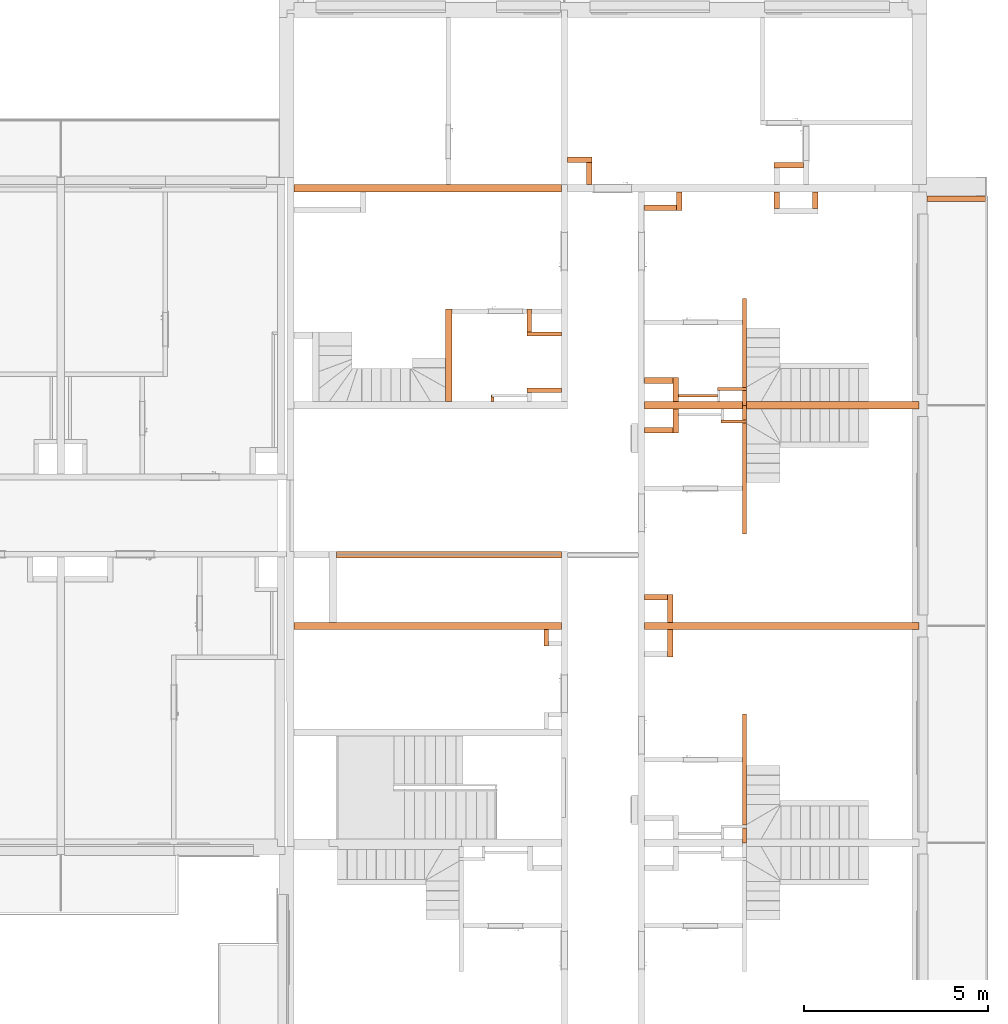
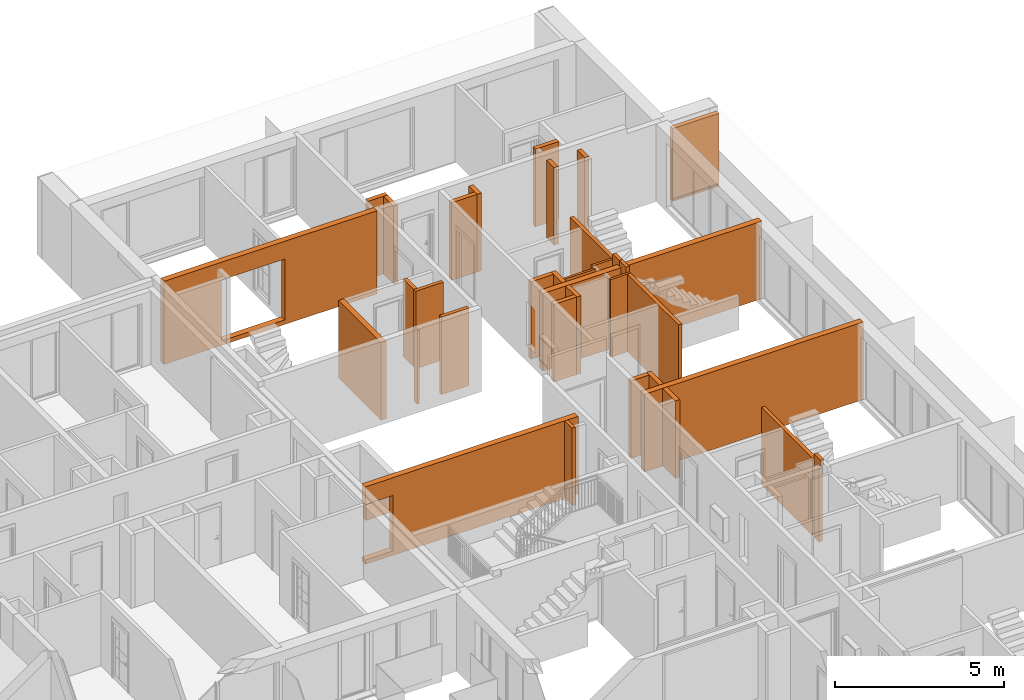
# One storey, part 60 of 61: 32 proxies, 2 openings.
"""IFC2X3 building model written with IfcOpenShell, lengths in millimetres."""

from ifc_helpers import new_model, entity, si_unit, converted_unit, derived_unit, money_unit, direction, frame, origin_with_axes, origin_2d_with_axis, place, context, subcontext, project, spatial, rectangle, extrude, faceted_brep, material, material_list, type_object, element, save


model = new_model("IFC2X3")

# Units and contexts
model_context = context("Model", 3, precision=0.01, world=origin_with_axes(), true_north=direction((0.34421633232, 0.938890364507)))
body_context = subcontext(model_context, "Body", "Model", "MODEL_VIEW")
ifc_project = project(units=[si_unit("LENGTHUNIT", "METRE", prefix="MILLI"), si_unit("AREAUNIT", "SQUARE_METRE"), si_unit("VOLUMEUNIT", "CUBIC_METRE"), converted_unit("PLANEANGLEUNIT", "DEGREE", entity("IfcPlaneAngleMeasure", 0.0174532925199), si_unit("PLANEANGLEUNIT", "RADIAN"), dimensions=[0, 0, 0, 0, 0, 0, 0]), si_unit("SOLIDANGLEUNIT", "STERADIAN"), money_unit("USD"), converted_unit("TIMEUNIT", "Year", entity("IfcTimeMeasure", 31556926.0), si_unit("TIMEUNIT", "SECOND"), dimensions=[0, 0, 1, 0, 0, 0, 0]), si_unit("MASSUNIT", "GRAM", prefix="KILO"), si_unit("THERMODYNAMICTEMPERATUREUNIT", "DEGREE_CELSIUS"), si_unit("LUMINOUSINTENSITYUNIT", "LUMEN"), si_unit("ENERGYUNIT", "JOULE", prefix="MEGA"), derived_unit("THERMALCONDUCTANCEUNIT", [(si_unit("POWERUNIT", "WATT"), 1), (si_unit("LENGTHUNIT", "METRE"), -1), (si_unit("THERMODYNAMICTEMPERATUREUNIT", "KELVIN"), -1)]), derived_unit("SPECIFICHEATCAPACITYUNIT", [(si_unit("ENERGYUNIT", "JOULE"), 1), (si_unit("MASSUNIT", "GRAM", prefix="KILO"), -1), (si_unit("THERMODYNAMICTEMPERATUREUNIT", "KELVIN"), -1)]), derived_unit("MASSDENSITYUNIT", [(si_unit("MASSUNIT", "GRAM", prefix="KILO"), 1), (si_unit("VOLUMEUNIT", "CUBIC_METRE"), -1)])], contexts=[model_context])

# Site, building, storey
site_placement = place(None, origin_with_axes())
site = spatial("IfcSite", under=ifc_project, at=site_placement, Name="USTRONIE MORSKIE", CompositionType="ELEMENT")
building_placement = place(site_placement, origin_with_axes())
building = spatial("IfcBuilding", under=site, at=building_placement, Name="Budynek", CompositionType="ELEMENT")
storey_placement = place(building_placement, frame((0.0, 0.0, 13000.0), z_axis=(0.0, 0.0, 1.0), x_axis=(1.0, 0.0, 0.0)))
storey = spatial("IfcBuildingStorey", under=building, at=storey_placement, Name="PIĘTRO 4", CompositionType="ELEMENT", Elevation=13000.0)

# Proxies
ifc_material_1 = material(Name="Bloczki silikatowe")
building_element_proxy_type_1 = type_object("IfcBuildingElementProxyType", Name="Bloczki silikatowe 120", PredefinedType="NOTDEFINED")
proxy_1_placement = place(storey_placement, frame((415057.919124, 740741.179476, -160.0), z_axis=(0.0, 0.0, 1.0), x_axis=(1.0, 0.0, 0.0)))
element("IfcBuildingElementProxy", 1, at=proxy_1_placement, inside=storey, type_object=building_element_proxy_type_1, material=ifc_material_1, Name="SW-04", context=body_context, shape_type="Brep", body=[
    faceted_brep([(880.001794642, -59.9999999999, 2800.0), (880.001794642, 59.9999999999, 2800.0), (-60.0, 59.9999999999, 2800.0), (-60.0, -59.9999999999, 2800.0), (880.001794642, -59.9999999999, 0.0), (880.001794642, 59.9999999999, 0.0), (-60.0, 59.9999999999, 0.0), (-60.0, -59.9999999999, 0.0)], [[[0, 1, 2, 3]], [[1, 0, 4, 5]], [[1, 5, 6, 2]], [[7, 3, 2, 6]], [[4, 0, 3, 7]], [[5, 4, 7, 6]]]),
])
proxy_2_placement = place(storey_placement, frame((420917.920919, 738801.202062, -160.0), z_axis=(0.0, 0.0, 1.0), x_axis=(0.0, -1.0, 0.0)))
element("IfcBuildingElementProxy", 2, at=proxy_2_placement, inside=storey, type_object=building_element_proxy_type_1, material=ifc_material_1, Name="SW-04", context=body_context, shape_type="Brep", body=[
    faceted_brep([(480.003508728, -60.0, 2800.0), (3499.99643694, -60.0, 2800.0), (3499.99643694, 60.0, 2800.0), (2099.99643694, 60.0, 2800.0), (480.003508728, 60.0, 2800.0), (3499.99643694, -60.0, 0.0), (480.003508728, -60.0, 0.0), (3499.99643694, 60.0, 0.0), (480.003508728, 60.0, 0.0)], [[[0, 1, 2, 3, 4]], [[5, 1, 0, 6]], [[7, 2, 1, 5]], [[4, 3, 2, 7, 8]], [[6, 0, 4, 8]], [[7, 5, 6, 8]]]),
    faceted_brep([(0.0, -60.0, 3000.0), (400.003508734, -60.0, 3000.0), (400.003508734, 60.0, 3000.0), (0.0, 60.0, 3000.0), (400.003508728, -60.0, 0.0), (400.003508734, -60.0, 2800.0), (0.0, -60.0, 2800.0), (100.003416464, -60.0, 2800.0), (100.003416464, -60.0, 0.0), (400.003508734, 60.0, 2800.0), (400.003508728, 60.0, 0.0), (100.003416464, 60.0, 0.0), (100.003416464, 60.0, 2800.0), (0.0, 60.0, 2800.0)], [[[0, 1, 2, 3]], [[4, 5, 1, 0, 6, 7, 8]], [[5, 9, 2, 1]], [[3, 2, 9, 10, 11, 12, 13]], [[0, 3, 13, 6]], [[10, 9, 5, 4]], [[12, 7, 6, 13]], [[8, 7, 12, 11]], [[8, 11, 10, 4]]]),
])
proxy_3_placement = place(storey_placement, frame((415057.919124, 741361.180377, -160.0), z_axis=(0.0, 0.0, 1.0), x_axis=(0.0, -1.0, 0.0)))
element("IfcBuildingElementProxy", 3, at=proxy_3_placement, inside=storey, type_object=building_element_proxy_type_1, material=ifc_material_1, Name="SW-04", context=body_context, shape_type="Brep", body=[
    faceted_brep([(560.00090117, -60.0, 2800.0), (560.00090117, 60.0, 2800.0), (-59.9999999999, 60.0, 2800.0), (-59.9999999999, -60.0, 2800.0), (560.00090117, -60.0, 0.0), (560.00090117, 60.0, 0.0), (-59.9999999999, 60.0, 0.0), (-59.9999999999, -60.0, 0.0)], [[[0, 1, 2, 3]], [[1, 0, 4, 5]], [[1, 5, 6, 2]], [[7, 3, 2, 6]], [[4, 0, 3, 7]], [[5, 4, 7, 6]]]),
])
proxy_4_placement = place(storey_placement, frame((420917.920919, 738801.202062, -160.0), z_axis=(0.0, 0.0, 1.0), x_axis=(0.0, 1.0, 0.0)))
element("IfcBuildingElementProxy", 4, at=proxy_4_placement, inside=storey, type_object=building_element_proxy_type_1, material=ifc_material_1, Name="SW-04", context=body_context, shape_type="Brep", body=[
    faceted_brep([(399.997456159, -60.0, 0.0), (399.999903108, -60.0, 2800.0), (399.999903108, -60.0, 3000.0), (0.0, -60.0, 3000.0), (0.0, -60.0, 2800.0), (99.9965835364, -60.0, 2800.0), (99.9965835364, -60.0, 0.0), (399.997456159, 60.0, 0.0), (399.999903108, 60.0, 2800.0), (399.999903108, 60.0, 3000.0), (0.0, 60.0, 3000.0), (0.0, 60.0, 2800.0), (99.9965835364, 60.0, 2800.0), (99.9965835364, 60.0, 0.0)], [[[0, 1, 2, 3, 4, 5, 6]], [[7, 8, 1, 0]], [[8, 9, 2, 1]], [[3, 2, 9, 10]], [[3, 10, 11, 4]], [[11, 12, 5, 4]], [[12, 13, 6, 5]], [[6, 13, 7, 0]], [[10, 9, 8, 7, 13, 12, 11]]]),
    faceted_brep([(2910.01632409, 60.0, 0.0), (2910.01632409, 60.0, 2800.0), (2910.01632409, -60.0, 2800.0), (2910.01632409, -60.0, 0.0), (479.997456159, 60.0, 2800.0), (479.997456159, 60.0, 0.0), (479.997456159, -60.0, 2800.0), (2100.00615581, -60.0, 2800.0), (479.997456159, -60.0, 0.0)], [[[0, 1, 2, 3]], [[4, 1, 0, 5]], [[6, 7, 2, 1, 4]], [[3, 2, 7, 6, 8]], [[0, 3, 8, 5]], [[8, 6, 4, 5]]]),
])
proxy_5_placement = place(storey_placement, frame((420917.920919, 726901.199074, -160.0), z_axis=(0.0, 0.0, 1.0), x_axis=(0.0, 1.0, 0.0)))
element("IfcBuildingElementProxy", 5, at=proxy_5_placement, inside=storey, type_object=building_element_proxy_type_1, material=ifc_material_1, Name="SW-04", context=body_context, shape_type="Brep", body=[
    faceted_brep([(400.000444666, -60.0, 0.0), (399.999962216, -60.0, 2800.0), (399.999962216, -60.0, 3000.0), (0.0, -60.0, 3000.0), (0.0, -60.0, 2800.0), (99.9999622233, -60.0, 2800.0), (99.9999622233, -60.0, 0.0), (400.000444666, 60.0, 0.0), (399.999962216, 60.0, 2800.0), (399.999962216, 60.0, 3000.0), (0.0, 60.0, 3000.0), (0.0, 60.0, 2800.0), (99.9999622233, 60.0, 2800.0), (99.9999622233, 60.0, 0.0)], [[[0, 1, 2, 3, 4, 5, 6]], [[7, 8, 1, 0]], [[8, 9, 2, 1]], [[3, 2, 9, 10]], [[3, 10, 11, 4]], [[11, 12, 5, 4]], [[12, 13, 6, 5]], [[6, 13, 7, 0]], [[10, 9, 8, 7, 13, 12, 11]]]),
    faceted_brep([(3499.97686691, 60.0, 0.0), (3499.97686691, 60.0, 2800.0), (3499.97686691, -60.0, 2800.0), (3499.97686691, -60.0, 0.0), (480.000444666, 60.0, 2800.0), (480.000444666, 60.0, 0.0), (480.000444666, -60.0, 2800.0), (2099.97686691, -60.0, 2800.0), (480.000444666, -60.0, 0.0)], [[[0, 1, 2, 3]], [[4, 1, 0, 5]], [[6, 7, 2, 1, 4]], [[3, 2, 7, 6, 8]], [[0, 3, 8, 5]], [[8, 6, 4, 5]]]),
])
proxy_6_placement = place(storey_placement, frame((415587.920919, 732801.199169, -160.0), z_axis=(0.0, 0.0, 1.0), x_axis=(0.0, -1.0, 0.0)))
element("IfcBuildingElementProxy", 6, at=proxy_6_placement, inside=storey, type_object=building_element_proxy_type_1, material=ifc_material_1, Name="SW-04", context=body_context, shape_type="Brep", body=[
    faceted_brep([(100.000132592, 0.0, 0.0), (100.000132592, 0.0, 2800.0), (540.000171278, 0.0, 2800.0), (540.000171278, 0.0, 0.0), (100.000132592, -120.0, 0.0), (100.000132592, -120.0, 2800.0), (540.000171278, -120.0, 2800.0), (540.000171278, -120.0, 0.0)], [[[0, 1, 2, 3]], [[4, 5, 1, 0]], [[2, 1, 5, 6]], [[7, 3, 2, 6]], [[7, 4, 0, 3]], [[6, 5, 4, 7]]]),
])
proxy_7_placement = place(storey_placement, frame((416017.920919, 739211.199036, -160.0), z_axis=(0.0, 0.0, 1.0), x_axis=(-1.0, 0.0, 0.0)))
element("IfcBuildingElementProxy", 7, at=proxy_7_placement, inside=storey, type_object=building_element_proxy_type_1, material=ifc_material_1, Name="Ściana-009", context=body_context, shape_type="Brep", body=[
    faceted_brep([(1020.00179464, 59.9999999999, 0.0), (1020.00179464, -59.9999999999, 0.0), (80.0, -59.9999999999, 0.0), (80.0, 59.9999999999, 0.0), (1020.00179464, 59.9999999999, 2800.0), (1020.00179464, -59.9999999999, 2800.0), (80.0, -59.9999999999, 2800.0), (80.0, 59.9999999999, 2800.0)], [[[0, 1, 2, 3]], [[1, 0, 4, 5]], [[1, 5, 6, 2]], [[7, 3, 2, 6]], [[4, 0, 3, 7]], [[5, 4, 7, 6]]]),
])
building_element_proxy_type_2 = type_object("IfcBuildingElementProxyType", Name="Bloczki silikatowe 180", PredefinedType="NOTDEFINED")
proxy_8_placement = place(storey_placement, frame((409817.916167, 734741.198985, -160.0), z_axis=(0.0, 0.0, 1.0), x_axis=(1.0, 0.0, 0.0)))
element("IfcBuildingElementProxy", 8, at=proxy_8_placement, inside=storey, type_object=building_element_proxy_type_2, material=ifc_material_1, Name="SW-02", context=body_context, shape_type="Brep", body=[
    faceted_brep([(6120.0047519, -90.0, 1060.0), (6120.0047519, 90.0, 1060.0), (0.0, 90.0, 1060.0), (0.0, -90.0, 1060.0), (6120.0047519, -90.0, 0.0), (6120.0047519, 90.0, 0.0), (0.0, 90.0, 0.0), (0.0, -90.0, 0.0)], [[[0, 1, 2, 3]], [[1, 0, 4, 5]], [[1, 5, 6, 2]], [[7, 3, 2, 6]], [[4, 0, 3, 7]], [[5, 4, 7, 6]]]),
])
proxy_9_placement = place(storey_placement, frame((412877.935963, 741361.180377, -160.0), z_axis=(0.0, 0.0, 1.0), x_axis=(0.0, -1.0, 0.0)))
element("IfcBuildingElementProxy", 9, at=proxy_9_placement, inside=storey, type_object=building_element_proxy_type_2, material=ifc_material_1, Name="Œciana-007", context=body_context, shape_type="Brep", body=[
    faceted_brep([(2459.98134114, 90.015, 0.0), (2459.98134114, -90.015, 0.0), (-59.9999999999, -90.015, 0.0), (-59.9999999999, 90.015, 0.0), (2459.98134114, 90.015, 2800.0), (2459.98134114, -90.015, 2800.0), (-59.9999999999, -90.015, 2800.0), (-59.9999999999, 90.015, 2800.0)], [[[0, 1, 2, 3]], [[1, 0, 4, 5]], [[1, 5, 6, 2]], [[7, 3, 2, 6]], [[4, 0, 3, 7]], [[5, 4, 7, 6]]]),
])
ifc_material_2 = material(Name="-Pustka powietrzna")
ifc_material_3 = material(Name="Płyta GK")
ifc_material_list = material_list([ifc_material_2, ifc_material_3, ifc_material_3])
building_element_proxy_type_3 = type_object("IfcBuildingElementProxyType", Name="330-SD GK 2-warstwy 75", PredefinedType="NOTDEFINED")
proxy_10_placement = place(storey_placement, frame((420217.920919, 739071.20032, -180.0), z_axis=(0.0, 0.0, 1.0), x_axis=(-1.0, 0.0, 0.0)))
element("IfcBuildingElementProxy", 10, at=proxy_10_placement, inside=storey, type_object=building_element_proxy_type_3, material=ifc_material_list, Name="Ściana-009", context=body_context, shape_type="Brep", body=[
    faceted_brep([(40.0, 50.0, 180.0), (40.0, 0.0, 180.0), (40.0, 0.0, 2820.0), (40.0, 50.0, 2820.0), (1099.99909883, 0.0, 180.0), (1099.99909883, 50.0, 180.0), (1099.99909883, 0.0, 2820.0), (1099.99909883, 50.0, 2820.0)], [[[0, 1, 2, 3]], [[4, 1, 0, 5]], [[1, 4, 6, 2]], [[2, 6, 7, 3]], [[5, 0, 3, 7]], [[4, 5, 7, 6]]]),
    faceted_brep([(40.0, 0.0, 165.0), (40.0, -12.5, 165.0), (40.0, -12.5, 2820.0), (40.0, 0.0, 2820.0), (1099.99909883, -12.5, 165.0), (1099.99909883, 0.0, 165.0), (1099.99909883, -12.5, 2820.0), (1099.99909883, 0.0, 2820.0)], [[[0, 1, 2, 3]], [[4, 1, 0, 5]], [[1, 4, 6, 2]], [[2, 6, 7, 3]], [[5, 0, 3, 7]], [[4, 5, 7, 6]]]),
    faceted_brep([(40.0, -12.5, 165.0), (40.0, -25.0, 165.0), (40.0, -25.0, 2820.0), (40.0, -12.5, 2820.0), (1099.99909883, -25.0, 165.0), (1099.99909883, -12.5, 165.0), (1099.99909883, -25.0, 2820.0), (1099.99909883, -12.5, 2820.0)], [[[0, 1, 2, 3]], [[4, 1, 0, 5]], [[1, 4, 6, 2]], [[2, 6, 7, 3]], [[5, 0, 3, 7]], [[4, 5, 7, 6]]]),
])
proxy_11_placement = place(storey_placement, frame((414047.919124, 739071.198488, -180.0), z_axis=(0.0, 0.0, 1.0), x_axis=(0.0, -1.0, 0.0)))
element("IfcBuildingElementProxy", 11, at=proxy_11_placement, inside=storey, type_object=building_element_proxy_type_3, material=ifc_material_list, Name="Ściana-009", context=body_context, shape_type="Brep", body=[
    faceted_brep([(169.99945214, 50.0, 180.0), (50.0, 50.0, 180.0), (50.0, 50.0, 2820.0), (169.99945214, 50.0, 2820.0), (50.0, 0.0, 180.0), (169.99945214, 0.0, 180.0), (50.0, 0.0, 2820.0), (169.99945214, 0.0, 2820.0)], [[[0, 1, 2, 3]], [[4, 1, 0, 5]], [[1, 4, 6, 2]], [[7, 3, 2, 6]], [[5, 0, 3, 7]], [[4, 5, 7, 6]]]),
    faceted_brep([(169.99945214, 0.0, 165.0), (0.0, 0.0, 165.0), (0.0, 0.0, 2820.0), (169.99945214, 0.0, 2820.0), (0.0, -12.5, 165.0), (169.99945214, -12.5, 165.0), (0.0, -12.5, 2820.0), (169.99945214, -12.5, 2820.0)], [[[0, 1, 2, 3]], [[4, 1, 0, 5]], [[1, 4, 6, 2]], [[7, 3, 2, 6]], [[5, 0, 3, 7]], [[4, 5, 7, 6]]]),
    faceted_brep([(169.99945214, -12.5, 165.0), (-12.5, -12.5, 165.0), (-12.5, -12.5, 2820.0), (169.99945214, -12.5, 2820.0), (-12.5, -25.0, 165.0), (169.99945214, -25.0, 165.0), (-12.5, -25.0, 2820.0), (169.99945214, -25.0, 2820.0)], [[[0, 1, 2, 3]], [[4, 1, 0, 5]], [[1, 4, 6, 2]], [[7, 3, 2, 6]], [[5, 0, 3, 7]], [[4, 5, 7, 6]]]),
])
building_element_proxy_type_4 = type_object("IfcBuildingElementProxyType", Name="Bloczki silikatowe 80", PredefinedType="NOTDEFINED")
proxy_12_placement = place(storey_placement, frame((420917.920919, 739241.199519, -160.0), z_axis=(0.0, 0.0, 1.0), x_axis=(-1.0, 0.0, 0.0)))
element("IfcBuildingElementProxy", 12, at=proxy_12_placement, inside=storey, type_object=building_element_proxy_type_4, material=ifc_material_1, Name="Ściana-009", context=body_context, shape_type="Brep", body=[
    faceted_brep([(740.0, -40.0, 2800.0), (740.0, 40.0, 2800.0), (-60.0, 40.0, 2800.0), (-60.0, -40.0, 2800.0), (740.0, -40.0, 0.0), (740.0, 40.0, 0.0), (-60.0, 40.0, 0.0), (-60.0, -40.0, 0.0)], [[[0, 1, 2, 3]], [[1, 0, 4, 5]], [[1, 5, 6, 2]], [[7, 3, 2, 6]], [[4, 0, 3, 7]], [[5, 4, 7, 6]]]),
])
proxy_13_placement = place(storey_placement, frame((420917.920919, 738361.198554, -160.0), z_axis=(0.0, 0.0, 1.0), x_axis=(-1.0, 0.0, 0.0)))
element("IfcBuildingElementProxy", 13, at=proxy_13_placement, inside=storey, type_object=building_element_proxy_type_4, material=ifc_material_1, Name="Ściana-009", context=body_context, shape_type="Brep", body=[
    faceted_brep([(640.0, 40.0, 0.0), (640.0, -40.0, 0.0), (-60.0, -40.0, 0.0), (-60.0, 40.0, 0.0), (640.0, 40.0, 2800.0), (640.0, -40.0, 2800.0), (-60.0, -40.0, 2800.0), (-60.0, 40.0, 2800.0)], [[[0, 1, 2, 3]], [[1, 0, 4, 5]], [[1, 5, 6, 2]], [[7, 3, 2, 6]], [[4, 0, 3, 7]], [[5, 4, 7, 6]]]),
])
building_element_proxy_type_5 = type_object("IfcBuildingElementProxyType", Name="Bloczki silikatowe 150", PredefinedType="NOTDEFINED")
proxy_14_placement = place(storey_placement, frame((419042.92182, 738801.198641, -160.0), z_axis=(0.0, 0.0, 1.0), x_axis=(0.0, -1.0, 0.0)))
element("IfcBuildingElementProxy", 14, at=proxy_14_placement, inside=storey, type_object=building_element_proxy_type_5, material=ifc_material_1, Name="SW-03", context=body_context, shape_type="Brep", body=[
    faceted_brep([(750.000879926, 75.0, 0.0), (750.000879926, -75.0, 0.0), (100.000001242, -75.0, 0.0), (100.000002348, 75.0, 0.0), (750.000879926, 75.0, 2800.0), (750.000879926, -75.0, 2800.0), (100.000001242, -75.0, 2800.0), (100.000002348, 75.0, 2800.0)], [[[0, 1, 2, 3]], [[1, 0, 4, 5]], [[1, 5, 6, 2]], [[7, 3, 2, 6]], [[4, 0, 3, 7]], [[5, 4, 7, 6]]]),
])
proxy_15_placement = place(storey_placement, frame((419142.92182, 744176.199036, -160.0), z_axis=(0.0, 0.0, 1.0), x_axis=(-1.0, 0.0, 0.0)))
element("IfcBuildingElementProxy", 15, at=proxy_15_placement, inside=storey, type_object=building_element_proxy_type_5, material=ifc_material_1, Name="SW-03", context=body_context, shape_type="Brep", body=[
    faceted_brep([(945.00090117, 75.0, 0.0), (945.00090117, -75.0, 0.0), (75.0, -75.0, 0.0), (75.0, 75.0, 0.0), (945.00090117, 75.0, 2800.0), (945.00090117, -75.0, 2800.0), (75.0, -75.0, 2800.0), (75.0, 75.0, 2800.0)], [[[0, 1, 2, 3]], [[1, 0, 4, 5]], [[1, 5, 6, 2]], [[7, 3, 2, 6]], [[4, 0, 3, 7]], [[5, 4, 7, 6]]]),
])
proxy_16_placement = place(storey_placement, frame((419142.92182, 744701.199973, -160.0), z_axis=(0.0, 0.0, 1.0), x_axis=(0.0, -1.0, 0.0)))
element("IfcBuildingElementProxy", 16, at=proxy_16_placement, inside=storey, type_object=building_element_proxy_type_5, material=ifc_material_1, Name="SW-03", context=body_context, shape_type="Brep", body=[
    faceted_brep([(600.000936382, 75.0, 0.0), (600.000936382, -75.0, 0.0), (100.000936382, -75.0, 0.0), (100.000936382, 75.0, 0.0), (600.000936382, 75.0, 2800.0), (600.000936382, -75.0, 2800.0), (100.000936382, -75.0, 2800.0), (100.000936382, 75.0, 2800.0)], [[[0, 1, 2, 3]], [[1, 0, 4, 5]], [[1, 5, 6, 2]], [[7, 3, 2, 6]], [[4, 0, 3, 7]], [[5, 4, 7, 6]]]),
])
proxy_17_placement = place(storey_placement, frame((418817.920919, 732801.199074, -160.0), z_axis=(0.0, 0.0, 1.0), x_axis=(0.0, -1.0, 0.0)))
element("IfcBuildingElementProxy", 17, at=proxy_17_placement, inside=storey, type_object=building_element_proxy_type_5, material=ifc_material_1, Name="SW-03", context=body_context, shape_type="Brep", body=[
    faceted_brep([(850.000037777, 150.0, 0.0), (100.000037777, 150.0, 0.0), (100.000037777, 150.0, 2800.0), (850.000037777, 150.0, 2800.0), (850.000037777, 0.0, 0.0), (100.000037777, 0.0, 0.0), (100.000037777, 0.0, 2800.0), (850.000037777, 0.0, 2800.0)], [[[0, 1, 2, 3]], [[4, 5, 1, 0]], [[5, 6, 2, 1]], [[3, 2, 6, 7]], [[3, 7, 4, 0]], [[7, 6, 5, 4]]]),
])
proxy_18_placement = place(storey_placement, frame((419042.92182, 738126.197761, -160.0), z_axis=(0.0, 0.0, 1.0), x_axis=(-1.0, 0.0, 0.0)))
element("IfcBuildingElementProxy", 18, at=proxy_18_placement, inside=storey, type_object=building_element_proxy_type_5, material=ifc_material_1, Name="SW-03", context=body_context, shape_type="Brep", body=[
    faceted_brep([(845.00090117, 75.0, 0.0), (845.00090117, -75.0, 0.0), (75.0, -75.0, 0.0), (75.0, 75.0, 0.0), (845.00090117, 75.0, 2800.0), (845.00090117, -75.0, 2800.0), (75.0, -75.0, 2800.0), (75.0, 75.0, 2800.0)], [[[0, 1, 2, 3]], [[1, 0, 4, 5]], [[1, 5, 6, 2]], [[7, 3, 2, 6]], [[4, 0, 3, 7]], [[5, 4, 7, 6]]]),
])
proxy_19_placement = place(storey_placement, frame((418817.920919, 732801.198998, -160.0), z_axis=(0.0, 0.0, 1.0), x_axis=(0.0, 1.0, 0.0)))
element("IfcBuildingElementProxy", 19, at=proxy_19_placement, inside=storey, type_object=building_element_proxy_type_5, material=ifc_material_1, Name="SW-03", context=body_context, shape_type="Brep", body=[
    faceted_brep([(850.000037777, -150.0, 2800.0), (850.000037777, 0.0, 2800.0), (100.000037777, 0.0, 2800.0), (100.000037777, -150.0, 2800.0), (850.000037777, -150.0, 0.0), (850.000037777, 0.0, 0.0), (100.000037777, 0.0, 0.0), (100.000037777, -150.0, 0.0)], [[[0, 1, 2, 3]], [[1, 0, 4, 5]], [[1, 5, 6, 2]], [[7, 3, 2, 6]], [[4, 0, 3, 7]], [[5, 4, 7, 6]]]),
])
proxy_20_placement = place(storey_placement, frame((421792.920919, 744091.199036, -160.0), z_axis=(0.0, 0.0, 1.0), x_axis=(0.0, 1.0, 0.0)))
element("IfcBuildingElementProxy", 20, at=proxy_20_placement, inside=storey, type_object=building_element_proxy_type_5, material=ifc_material_1, Name="SW-03", context=body_context, shape_type="Brep", body=[
    faceted_brep([(59.9999999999, -75.0, 0.0), (510.0, -75.0, 0.0), (510.0, -75.0, 2799.99999875), (59.9999999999, -75.0, 2800.0), (59.9999999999, 75.0, 0.0), (510.0, 75.0, 0.0), (510.0, 75.0, 2799.99999878), (59.9999999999, 75.0, 2800.0)], [[[0, 1, 2, 3]], [[4, 5, 1, 0]], [[5, 6, 2, 1]], [[3, 2, 6, 7]], [[7, 4, 0, 3]], [[7, 6, 5, 4]]]),
])
proxy_21_placement = place(storey_placement, frame((419042.92182, 739476.199519, -160.0), z_axis=(0.0, 0.0, 1.0), x_axis=(-1.0, 0.0, 0.0)))
element("IfcBuildingElementProxy", 21, at=proxy_21_placement, inside=storey, type_object=building_element_proxy_type_5, material=ifc_material_1, Name="SW-03", context=body_context, shape_type="Brep", body=[
    faceted_brep([(845.00090117, -75.0, 2800.0), (845.00090117, 75.0, 2800.0), (75.0, 75.0, 2800.0), (75.0, -75.0, 2800.0), (845.00090117, -75.0, 0.0), (845.00090117, 75.0, 0.0), (75.0, 75.0, 0.0), (75.0, -75.0, 0.0)], [[[0, 1, 2, 3]], [[1, 0, 4, 5]], [[1, 5, 6, 2]], [[7, 3, 2, 6]], [[4, 0, 3, 7]], [[5, 4, 7, 6]]]),
])
proxy_22_placement = place(storey_placement, frame((416692.920089, 745476.199937, -160.0), z_axis=(0.0, 0.0, 1.0), x_axis=(0.0, -1.0, 0.0)))
element("IfcBuildingElementProxy", 22, at=proxy_22_placement, inside=storey, type_object=building_element_proxy_type_5, material=ifc_material_1, Name="SW-03", context=body_context, shape_type="Brep", body=[
    faceted_brep([(675.00090117, 74.9999999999, 0.0), (675.00090117, -75.0000000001, 0.0), (75.0, -75.0, 0.0), (75.0, 75.0, 0.0), (675.00090117, 74.9999999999, 2800.0), (675.00090117, -75.0000000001, 2800.0), (75.0, -75.0, 2800.0), (75.0, 75.0, 2800.0)], [[[0, 1, 2, 3]], [[1, 0, 4, 5]], [[1, 5, 6, 2]], [[7, 3, 2, 6]], [[4, 0, 3, 7]], [[5, 4, 7, 6]]]),
])
proxy_23_placement = place(storey_placement, frame((419042.92182, 738801.198639, -160.0), z_axis=(0.0, 0.0, 1.0), x_axis=(0.0, 1.0, 0.0)))
element("IfcBuildingElementProxy", 23, at=proxy_23_placement, inside=storey, type_object=building_element_proxy_type_5, material=ifc_material_1, Name="SW-03", context=body_context, shape_type="Brep", body=[
    faceted_brep([(750.000879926, 75.0, 2800.0), (100.000007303, 75.0, 2800.0), (100.000007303, -75.0, 2800.0), (750.000879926, -75.0, 2800.0), (750.000879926, 75.0, 0.0), (100.000007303, 75.0, 0.0), (100.000007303, -75.0, 0.0), (750.000879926, -75.0, 0.0)], [[[0, 1, 2, 3]], [[4, 5, 1, 0]], [[5, 6, 2, 1]], [[3, 2, 6, 7]], [[7, 4, 0, 3]], [[7, 6, 5, 4]]]),
])
proxy_24_placement = place(storey_placement, frame((418817.920919, 733501.199036, -160.0), z_axis=(0.0, 0.0, 1.0), x_axis=(-1.0, 0.0, 0.0)))
element("IfcBuildingElementProxy", 24, at=proxy_24_placement, inside=storey, type_object=building_element_proxy_type_5, material=ifc_material_1, Name="SW-03", context=body_context, shape_type="Brep", body=[
    faceted_brep([(620.0, -150.0, 2800.0), (620.0, 0.0, 2800.0), (0.0, 0.0, 2800.0), (0.0, -150.0, 2800.0), (620.0, -150.0, 0.0), (620.0, 0.0, 0.0), (0.0, 0.0, 0.0), (0.0, -150.0, 0.0)], [[[0, 1, 2, 3]], [[1, 0, 4, 5]], [[1, 5, 6, 2]], [[7, 3, 2, 6]], [[4, 0, 3, 7]], [[5, 4, 7, 6]]]),
])
proxy_25_placement = place(storey_placement, frame((422842.920919, 744091.199036, -160.0), z_axis=(0.0, 0.0, 1.0), x_axis=(0.0, 1.0, 0.0)))
element("IfcBuildingElementProxy", 25, at=proxy_25_placement, inside=storey, type_object=building_element_proxy_type_5, material=ifc_material_1, Name="SW-03", context=body_context, shape_type="Brep", body=[
    faceted_brep([(510.0, 75.0, 0.0), (510.0, -75.0, 0.0), (59.9999999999, -75.0, 0.0), (59.9999999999, 75.0, 0.0), (510.0, 75.0, 2800.0), (510.0, -75.0, 2800.0), (59.9999999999, -75.0, 2800.0), (59.9999999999, 75.0, 2800.0)], [[[0, 1, 2, 3]], [[1, 0, 4, 5]], [[1, 5, 6, 2]], [[7, 3, 2, 6]], [[4, 0, 3, 7]], [[5, 4, 7, 6]]]),
])
proxy_26_placement = place(storey_placement, frame((416017.920004, 745476.199937, -160.0), z_axis=(0.0, 0.0, 1.0), x_axis=(1.0, 0.0, 0.0)))
element("IfcBuildingElementProxy", 26, at=proxy_26_placement, inside=storey, type_object=building_element_proxy_type_5, material=ifc_material_1, Name="SW-03", context=body_context, shape_type="Brep", body=[
    faceted_brep([(750.000084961, 75.0, 0.0), (750.000084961, -75.0, 0.0), (80.0009147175, -75.0, 0.0), (80.0009147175, 75.0, 0.0), (750.000084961, 75.0, 2800.0), (750.000084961, -75.0, 2800.0), (80.0009147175, -75.0, 2800.0), (80.0009147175, 75.0, 2800.0)], [[[0, 1, 2, 3]], [[1, 0, 4, 5]], [[1, 5, 6, 2]], [[7, 3, 2, 6]], [[4, 0, 3, 7]], [[5, 4, 7, 6]]]),
])
proxy_27_placement = place(storey_placement, frame((422592.920919, 745326.199036, -160.0), z_axis=(0.0, 0.0, 1.0), x_axis=(-1.0, 0.0, 0.0)))
element("IfcBuildingElementProxy", 27, at=proxy_27_placement, inside=storey, type_object=building_element_proxy_type_5, material=ifc_material_1, Name="Œciana-007", context=body_context, shape_type="Brep", body=[
    faceted_brep([(875.0, 75.0, 0.0), (875.0, -75.0, 0.0), (75.0, -75.0, 0.0), (75.0, 75.0, 0.0), (875.0, 75.0, 2800.0), (875.0, -75.0, 2800.0), (75.0, -75.0, 2800.0), (75.0, 75.0, 2800.0)], [[[0, 1, 2, 3]], [[1, 0, 4, 5]], [[1, 5, 6, 2]], [[7, 3, 2, 6]], [[4, 0, 3, 7]], [[5, 4, 7, 6]]]),
])

# Proxy, opening
ifc_material_4 = material(Name="Beton konstrukcyjny B25")
building_element_proxy_type_6 = type_object("IfcBuildingElementProxyType", Name="Beton konstrukcyjny B25 200", PredefinedType="NOTDEFINED")
proxy_28_placement = place(storey_placement, frame((416017.920919, 744701.199036, -160.0), z_axis=(0.0, 0.0, 1.0), x_axis=(-1.0, 0.0, 0.0)))
proxy_28 = element("IfcBuildingElementProxy", 28, at=proxy_28_placement, inside=storey, type_object=building_element_proxy_type_6, material=ifc_material_4, Name="SW-01", context=body_context, shape_type="Brep", body=[
    faceted_brep([(7350.0, -100.000000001, 3000.0), (7350.0, 99.9999999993, 3000.0), (80.0, 100.0, 3000.0), (80.0, -100.0, 3000.0), (7350.0, -100.000000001, 0.0), (7350.0, 99.9999999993, 0.0), (80.0, 100.0, 0.0), (80.0, -100.0, 0.0)], [[[0, 1, 2, 3]], [[1, 0, 4, 5]], [[1, 5, 6, 2]], [[7, 3, 2, 6]], [[4, 0, 3, 7]], [[5, 4, 7, 6]]]),
])
opening_1_placement = place(proxy_28_placement, frame((4304.99039259, 3.41060513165e-10, 160.0), z_axis=(0.0, 0.0, 1.0), x_axis=(1.0, 0.0, 0.0)))
element("IfcOpeningElement", 29, at=opening_1_placement, cuts=proxy_28, Name="Dw.02", context=body_context, shape_type="SweptSolid", body=[
    extrude(rectangle(XDim=2169.98087555, YDim=2200.0, at=origin_2d_with_axis()), frame((0.0, -100.0, 1100.0), z_axis=(0.0, 1.0, 0.0), x_axis=(1.0, 0.0, 0.0)), (0.0, 0.0, -1.0), 200.0),
    extrude(rectangle(XDim=2169.98087555, YDim=2200.0, at=origin_2d_with_axis()), frame((0.0, -100.0, 1100.0), z_axis=(0.0, -1.0, 0.0), x_axis=(1.0, 0.0, 0.0)), (0.0, 0.0, -1.0), 200.0),
])

proxy_29_placement = place(storey_placement, frame((408567.862022, 732801.199036, -160.0), z_axis=(0.0, 0.0, 1.0), x_axis=(1.0, 0.0, 0.0)))
proxy_29 = element("IfcBuildingElementProxy", 30, at=proxy_29_placement, inside=storey, type_object=building_element_proxy_type_6, material=ifc_material_4, Name="SW-01", context=body_context, shape_type="Brep", body=[
    faceted_brep([(99.9990464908, 100.0, 0.0), (99.9990464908, 100.0, 2800.0), (7370.05878378, 100.0, 2800.0), (7370.05889703, 100.0, 0.0), (100.000953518, -100.0, 0.0), (100.000953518, -100.0, 2800.0), (7370.05878378, -100.0, 2800.0), (7370.05889703, -100.0, 0.0)], [[[0, 1, 2, 3]], [[4, 5, 1, 0]], [[5, 6, 2, 1]], [[3, 2, 6, 7]], [[4, 0, 3, 7]], [[7, 6, 5, 4]]]),
])
opening_2_placement = place(proxy_29_placement, frame((575.031235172, -1.13686837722e-10, 160.0), z_axis=(0.0, 0.0, 1.0), x_axis=(1.0, 0.0, 0.0)))
element("IfcOpeningElement", 31, at=opening_2_placement, cuts=proxy_29, context=body_context, shape_type="SweptSolid", body=[
    extrude(rectangle(XDim=950.005444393, YDim=2000.0, at=origin_2d_with_axis()), frame((0.0, 100.0, 1000.0), z_axis=(0.0, -1.0, 0.0), x_axis=(1.0, 0.0, 0.0)), (0.0, 0.0, -1.0), 200.0),
    extrude(rectangle(XDim=950.005444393, YDim=2000.0, at=origin_2d_with_axis()), frame((0.0, 100.0, 1000.0), z_axis=(0.0, 1.0, 0.0), x_axis=(1.0, 0.0, 0.0)), (0.0, 0.0, -1.0), 200.0),
])

# Proxies
proxy_30_placement = place(storey_placement, frame((418117.920919, 738801.198646, -160.0), z_axis=(0.0, 0.0, 1.0), x_axis=(1.0, -7.37678029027e-09, 0.0)))
element("IfcBuildingElementProxy", 32, at=proxy_30_placement, inside=storey, type_object=building_element_proxy_type_6, material=ifc_material_4, Name="SW-01", context=body_context, shape_type="Brep", body=[
    faceted_brep([(80.0000007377, -99.9999994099, 2800.0), (7550.00000074, -99.9999443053, 2800.0), (7549.99999926, 100.000055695, 2800.0), (79.9999992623, 100.00000059, 2800.0), (80.0000007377, -99.9999994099, 0.0), (7550.00000074, -99.9999443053, 0.0), (7549.99999926, 100.000055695, 0.0), (79.9999992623, 100.00000059, 0.0)], [[[0, 1, 2, 3]], [[4, 5, 1, 0]], [[6, 2, 1, 5]], [[3, 2, 6, 7]], [[7, 4, 0, 3]], [[7, 6, 5, 4]]]),
])
proxy_31_placement = place(storey_placement, frame((425567.920919, 732801.199036, -160.0), z_axis=(0.0, 0.0, 1.0), x_axis=(-1.0, 0.0, 0.0)))
element("IfcBuildingElementProxy", 33, at=proxy_31_placement, inside=storey, type_object=building_element_proxy_type_6, material=ifc_material_4, Name="SW-01", context=body_context, shape_type="Brep", body=[
    faceted_brep([(-100.0, 100.0, 0.0), (7370.0, 100.0, 0.0), (7370.0, -100.0, 0.0), (-100.0, -100.0, 0.0), (-100.0, 100.0, 2800.0), (7370.0, 100.0, 2800.0), (7370.0, -100.0, 2800.0), (-100.0, -100.0, 2800.0)], [[[0, 1, 2, 3]], [[4, 5, 1, 0]], [[6, 2, 1, 5]], [[3, 2, 6, 7]], [[7, 4, 0, 3]], [[7, 6, 5, 4]]]),
])
ifc_material_5 = material(Name="Laminat")
building_element_proxy_type_7 = type_object("IfcBuildingElementProxyType", Name="Laminat 150", PredefinedType="NOTDEFINED")
proxy_32_placement = place(storey_placement, frame((425877.920919, 744416.199036, -180.0), z_axis=(0.0, 0.0, 1.0), x_axis=(1.0, 0.0, 0.0)))
element("IfcBuildingElementProxy", 34, at=proxy_32_placement, inside=storey, type_object=building_element_proxy_type_7, material=ifc_material_5, Name="SW-03", context=body_context, shape_type="Brep", body=[
    faceted_brep([(0.0, -75.0, 2659.99999792), (0.0, -75.0, 29.9999962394), (1589.99971409, -75.0, 29.9999962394), (1590.0, -75.0, 2659.99999792), (1547.49980813, -75.0, 104.999995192), (4.99980812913, -75.0, 104.999995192), (4.99980812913, -75.0, 129.999995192), (1572.49971536, -75.0, 129.999995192), (1572.49971536, -75.0, 34.9999951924), (1547.49980813, -75.0, 34.9999951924), (0.0, 75.0, 2659.99999792), (0.0, 75.0, 29.9999962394), (1589.99971409, 75.0, 29.9999962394), (1590.0, 75.0, 2659.99999792), (1547.49980813, 75.0, 104.999995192), (4.99980812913, 75.0, 104.999995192), (4.99980812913, 75.0, 129.999995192), (1572.49971536, 75.0, 129.999995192), (1572.49971536, 75.0, 34.9999951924), (1547.49980813, 75.0, 34.9999951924)], [[[0, 1, 2, 3], [4, 5, 6, 7, 8, 9]], [[10, 11, 1, 0]], [[1, 11, 12, 2]], [[3, 2, 12, 13]], [[13, 10, 0, 3]], [[4, 14, 15, 5]], [[5, 15, 16, 6]], [[6, 16, 17, 7]], [[7, 17, 18, 8]], [[8, 18, 19, 9]], [[9, 19, 14, 4]], [[13, 12, 11, 10], [14, 19, 18, 17, 16, 15]]]),
])

save(model, "model.ifc")
